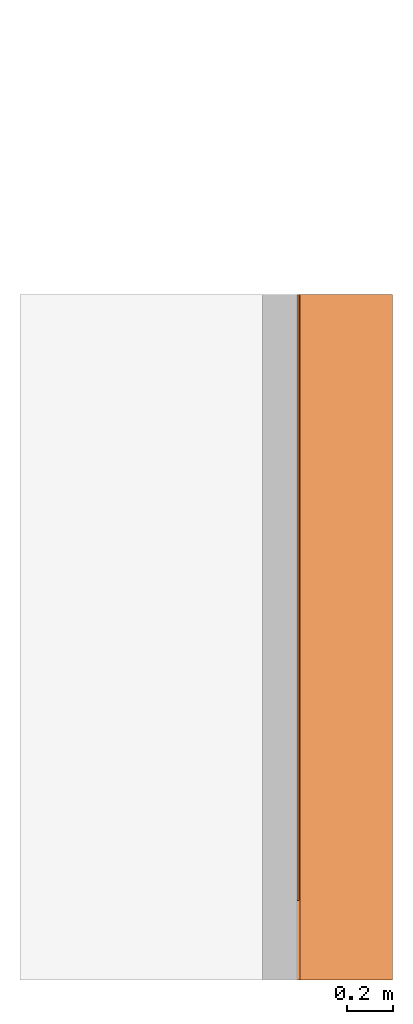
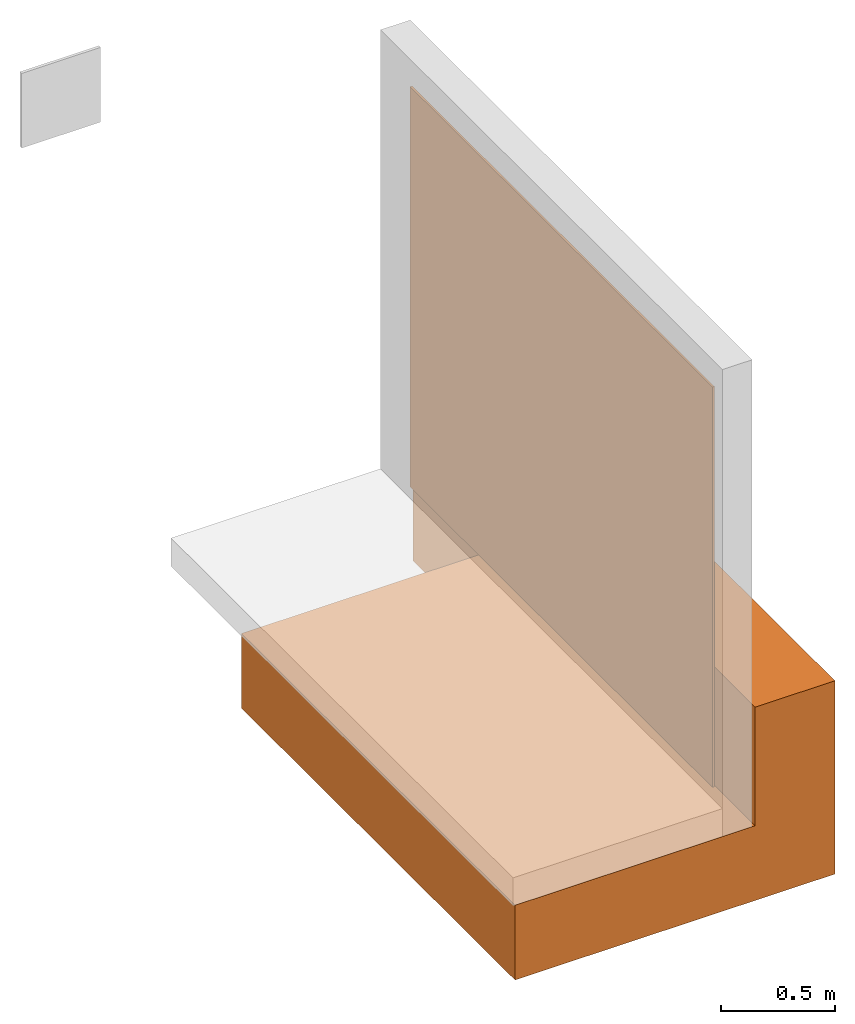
# One storey, part 2 of 2: 1 proxy.
"""IFC2X3 building model written with IfcOpenShell, lengths in metres."""

from ifc_helpers import new_model, entity, si_unit, converted_unit, derived_unit, direction, frame, frame_2d, origin, origin_2d_with_axis, place, context, subcontext, project, spatial, polyline, circle_curve, parameter, trimmed, segment, composite_curve, rectangle, outline, extrude, source, transform, mapped, material, material_list, type_object, type_shapes, element, save


model = new_model("IFC2X3")

# Units and contexts
model_context = context("Model", 3, precision=1e-05, world=origin(), true_north=direction((6.123031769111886e-17, 1.0)))
body_context = subcontext(model_context, "Body", "Model", "MODEL_VIEW")
ifc_project = project(units=[si_unit("LENGTHUNIT", "METRE"), si_unit("AREAUNIT", "SQUARE_METRE"), si_unit("VOLUMEUNIT", "CUBIC_METRE"), converted_unit("PLANEANGLEUNIT", "DEGREE", entity("IfcRatioMeasure", 0.017453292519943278), si_unit("PLANEANGLEUNIT", "RADIAN"), dimensions=[0, 0, 0, 0, 0, 0, 0]), si_unit("MASSUNIT", "GRAM", prefix="KILO"), derived_unit("MASSDENSITYUNIT", [(si_unit("MASSUNIT", "GRAM", prefix="KILO"), 1), (si_unit("LENGTHUNIT", "METRE"), -3)]), derived_unit("IONCONCENTRATIONUNIT", [(si_unit("MASSUNIT", "GRAM", prefix="KILO"), 1), (si_unit("LENGTHUNIT", "METRE"), -3)]), derived_unit("MOMENTOFINERTIAUNIT", [(si_unit("LENGTHUNIT", "METRE"), 4)]), si_unit("TIMEUNIT", "SECOND"), si_unit("FREQUENCYUNIT", "HERTZ"), si_unit("THERMODYNAMICTEMPERATUREUNIT", "DEGREE_CELSIUS"), derived_unit("THERMALTRANSMITTANCEUNIT", [(si_unit("MASSUNIT", "GRAM", prefix="KILO"), 1), (si_unit("THERMODYNAMICTEMPERATUREUNIT", "KELVIN"), -1), (si_unit("TIMEUNIT", "SECOND"), -3)]), derived_unit("THERMALCONDUCTANCEUNIT", [(si_unit("MASSUNIT", "GRAM", prefix="KILO"), 1), (si_unit("THERMODYNAMICTEMPERATUREUNIT", "KELVIN"), -1), (si_unit("TIMEUNIT", "SECOND"), -3), (si_unit("LENGTHUNIT", "METRE"), 1)]), derived_unit("VOLUMETRICFLOWRATEUNIT", [(si_unit("LENGTHUNIT", "METRE"), 3), (si_unit("TIMEUNIT", "SECOND"), -1)]), derived_unit("MASSFLOWRATEUNIT", [(si_unit("MASSUNIT", "GRAM", prefix="KILO"), 1), (si_unit("TIMEUNIT", "SECOND"), -1)]), derived_unit("ROTATIONALFREQUENCYUNIT", [(si_unit("TIMEUNIT", "SECOND"), -1)]), si_unit("ELECTRICCURRENTUNIT", "AMPERE"), si_unit("ELECTRICVOLTAGEUNIT", "VOLT"), si_unit("POWERUNIT", "WATT"), si_unit("FORCEUNIT", "NEWTON", prefix="KILO"), si_unit("ILLUMINANCEUNIT", "LUX"), si_unit("LUMINOUSFLUXUNIT", "LUMEN"), si_unit("LUMINOUSINTENSITYUNIT", "CANDELA"), derived_unit("USERDEFINED", [(si_unit("MASSUNIT", "GRAM", prefix="KILO"), -1), (si_unit("LENGTHUNIT", "METRE"), -2), (si_unit("TIMEUNIT", "SECOND"), 3), (si_unit("LUMINOUSFLUXUNIT", "LUMEN"), 1)]), derived_unit("USERDEFINED", [(si_unit("MASSUNIT", "GRAM", prefix="KILO"), 1), (si_unit("TIMEUNIT", "SECOND"), -3), (si_unit("LENGTHUNIT", "METRE"), 3), (si_unit("ELECTRICCURRENTUNIT", "AMPERE"), -2)]), derived_unit("SOUNDPOWERUNIT", [(si_unit("MASSUNIT", "GRAM", prefix="KILO"), 1), (si_unit("TIMEUNIT", "SECOND"), -3), (si_unit("LENGTHUNIT", "METRE"), 2)]), derived_unit("SOUNDPRESSUREUNIT", [(si_unit("MASSUNIT", "GRAM", prefix="KILO"), 1), (si_unit("LENGTHUNIT", "METRE"), -1), (si_unit("TIMEUNIT", "SECOND"), -2)]), derived_unit("LINEARVELOCITYUNIT", [(si_unit("LENGTHUNIT", "METRE"), 1), (si_unit("TIMEUNIT", "SECOND"), -1)]), si_unit("PRESSUREUNIT", "PASCAL"), derived_unit("USERDEFINED", [(si_unit("MASSUNIT", "GRAM", prefix="KILO"), 1), (si_unit("LENGTHUNIT", "METRE"), -2), (si_unit("TIMEUNIT", "SECOND"), -2)]), derived_unit("LINEARFORCEUNIT", [(si_unit("MASSUNIT", "GRAM", prefix="KILO"), 1), (si_unit("TIMEUNIT", "SECOND"), -2)]), derived_unit("PLANARFORCEUNIT", [(si_unit("MASSUNIT", "GRAM", prefix="KILO"), 1), (si_unit("LENGTHUNIT", "METRE"), -1), (si_unit("TIMEUNIT", "SECOND"), -2)]), derived_unit("SPECIFICHEATCAPACITYUNIT", [(si_unit("THERMODYNAMICTEMPERATUREUNIT", "KELVIN"), -1), (si_unit("LENGTHUNIT", "METRE"), 2), (si_unit("TIMEUNIT", "SECOND"), -2)]), derived_unit("HEATINGVALUEUNIT", [(si_unit("LENGTHUNIT", "METRE"), 2), (si_unit("TIMEUNIT", "SECOND"), -2)]), derived_unit("VAPORPERMEABILITYUNIT", [(si_unit("LENGTHUNIT", "METRE"), -1), (si_unit("TIMEUNIT", "SECOND"), 1)]), derived_unit("DYNAMICVISCOSITYUNIT", [(si_unit("MASSUNIT", "GRAM", prefix="KILO"), 1), (si_unit("TIMEUNIT", "SECOND"), -1), (si_unit("LENGTHUNIT", "METRE"), -1)]), derived_unit("THERMALEXPANSIONCOEFFICIENTUNIT", [(si_unit("THERMODYNAMICTEMPERATUREUNIT", "KELVIN"), -1)]), derived_unit("MODULUSOFELASTICITYUNIT", [(si_unit("MASSUNIT", "GRAM", prefix="KILO"), 1), (si_unit("LENGTHUNIT", "METRE"), -1), (si_unit("TIMEUNIT", "SECOND"), -2)]), derived_unit("ISOTHERMALMOISTURECAPACITYUNIT", [(si_unit("LENGTHUNIT", "METRE"), 3), (si_unit("MASSUNIT", "GRAM", prefix="KILO"), -1)]), derived_unit("MOISTUREDIFFUSIVITYUNIT", [(si_unit("TIMEUNIT", "SECOND"), -1), (si_unit("LENGTHUNIT", "METRE"), 2)])], contexts=[model_context])

# Site, building, storey
site_placement = place(None, origin())
site = spatial("IfcSite", under=ifc_project, at=site_placement, Name="Default", CompositionType="ELEMENT")
building_placement = place(site_placement, origin())
building = spatial("IfcBuilding", under=site, at=building_placement, CompositionType="ELEMENT")
storey_placement = place(building_placement, frame((0.0, 0.0, -0.0025237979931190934)))
storey = spatial("IfcBuildingStorey", under=building, at=storey_placement, Name="ARQ Térreo", CompositionType="ELEMENT", Elevation=-0.0025237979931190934)

# Proxy
ifc_material_1 = material(Name="#argamassa")
ifc_material_2 = material(Name="#solo")
ifc_material_3 = material(Name="#Geotextil")
ifc_material_4 = material(Name="#Viaplus 1000")
ifc_material_5 = material(Name="#Chapisco")
ifc_material_list = material_list([ifc_material_1, ifc_material_2, ifc_material_3, ifc_material_4, ifc_material_5])
building_element_proxy_type = type_object("IfcBuildingElementProxyType", Name="IMPER:IMPER", PredefinedType="NOTDEFINED", material=ifc_material_list)
shared_shape = source(origin(), body_context, "Body", "SweptSolid", [
    extrude(rectangle(XDim=2.651844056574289, YDim=0.009972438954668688, at=origin_2d_with_axis()), frame((-0.346984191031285, -1.180052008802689, -0.0025237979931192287), z_axis=(0.0, 0.0, 1.0), x_axis=(0.0, -1.0, 0.0)), (0.0, 0.0, 1.0), 2.1428222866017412),
    extrude(rectangle(XDim=2.4000000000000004, YDim=1.2158489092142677, at=frame_2d((-1.1102230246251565e-16, 0.0), x_axis=(1.0, 0.0))), frame((-0.9448559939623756, -1.6541299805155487, -0.402523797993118), z_axis=(0.0, 0.0, 1.0), x_axis=(0.0, 1.0, 0.0)), (0.0, 0.0, 1.0), 0.4000000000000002),
    extrude(rectangle(XDim=2.999999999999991, YDim=0.4039724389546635, at=frame_2d((-1.1102230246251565e-16, 0.0), x_axis=(1.0, 0.0))), frame((-0.1349453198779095, -1.3541299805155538, -0.40252379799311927), z_axis=(0.0, 0.0, 1.0), x_axis=(0.0, 1.0, 0.0)), (0.0, 0.0, 1.0), 1.0348744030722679),
    extrude(outline(composite_curve([segment(polyline([(-0.008387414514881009, -0.8529182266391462), (-0.005387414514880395, -0.8529182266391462)]), True, "CONTINUOUS"), segment(polyline([(-0.005387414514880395, -0.8529182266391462), (-0.005387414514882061, 0.21322955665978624)]), True, "CONTINUOUS"), segment(trimmed(circle_curve(frame_2d((0.0016125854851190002, 0.21322955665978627), x_axis=(1.0, 0.0)), 0.007000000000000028), [parameter(3.053332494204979e-13)], [parameter(179.99999999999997)], True, "PARAMETER"), False, "CONTINUOUS"), segment(trimmed(circle_curve(frame_2d((0.005091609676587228, 0.21322955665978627), x_axis=(1.0, 0.0)), 0.0035209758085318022), [parameter(179.99999999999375)], [parameter(8.651108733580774e-13)], True, "PARAMETER"), False, "CONTINUOUS"), segment(trimmed(circle_curve(frame_2d((0.0018311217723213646, 0.21322955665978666), x_axis=(1.0, 0.0)), 0.00026048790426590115), [parameter(359.9999999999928)], [parameter(180.00000000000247)], True, "PARAMETER"), False, "CONTINUOUS"), segment(polyline([(0.0020916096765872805, 0.21322955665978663), (0.005091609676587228, 0.21322955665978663)]), True, "CONTINUOUS"), segment(trimmed(circle_curve(frame_2d((0.0018311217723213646, 0.21322955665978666), x_axis=(1.0, 0.0)), 0.003260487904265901), [parameter(359.99999999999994)], [parameter(179.99999999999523)], True, "PARAMETER"), True, "CONTINUOUS"), segment(trimmed(circle_curve(frame_2d((0.005091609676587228, 0.21322955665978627), x_axis=(1.0, 0.0)), 0.006520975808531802), [parameter(179.9999999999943)], [parameter(1.0177774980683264e-12)], True, "PARAMETER"), True, "CONTINUOUS"), segment(trimmed(circle_curve(frame_2d((0.0016125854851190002, 0.21322955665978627), x_axis=(1.0, 0.0)), 0.010000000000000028), [parameter(7.124442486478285e-13)], [parameter(179.99999999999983)], True, "PARAMETER"), True, "CONTINUOUS"), segment(polyline([(-0.008387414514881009, 0.21322955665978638), (-0.008387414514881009, -0.8529182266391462)]), True, "CONTINUOUS")], self_intersect=False)), frame((-0.331638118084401, -1.3541299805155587, 0.21070575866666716), z_axis=(0.0, 1.0, 0.0), x_axis=(1.0, 0.0, 0.0)), (0.0, 0.0, 1.0), 1.5000000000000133),
    extrude(rectangle(XDim=0.0009999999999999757, YDim=2.4000000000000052, at=frame_2d((-3.3881317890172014e-17, 1.1102230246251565e-16), x_axis=(1.0, 0.0))), frame((-0.34149797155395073, -1.054129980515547, -0.0025237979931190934), z_axis=(0.0, 0.0, 1.0), x_axis=(-1.0, 0.0, 0.0)), (0.0, 0.0, 1.0), 1.965708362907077),
    extrude(rectangle(XDim=0.0009724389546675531, YDim=1.9000000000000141, at=frame_2d((3.382710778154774e-17, 0.0), x_axis=(1.0, 0.0))), frame((-0.34051175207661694, -0.8041299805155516, -0.0025237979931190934), z_axis=(0.0, 0.0, 1.0), x_axis=(-1.0, 0.0, 0.0)), (0.0, 0.0, 1.0), 1.5481528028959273),
])
type_shapes(building_element_proxy_type, [shared_shape])
proxy_placement = place(storey_placement, frame((0.0, 0.0, 0.0025237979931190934)))
element("IfcBuildingElementProxy", 1, at=proxy_placement, inside=storey, type_object=building_element_proxy_type, material=ifc_material_list, Name="IMPER:IMPER:IMPER : IMPER:IMPER", ObjectType="IMPER:IMPER:IMPER : IMPER:IMPER", context=body_context, shape_type="MappedRepresentation", body=[
    mapped(shared_shape, transform((0.0, 0.0, 0.0), scale=1.0)),
])

save(model, "model.ifc")
